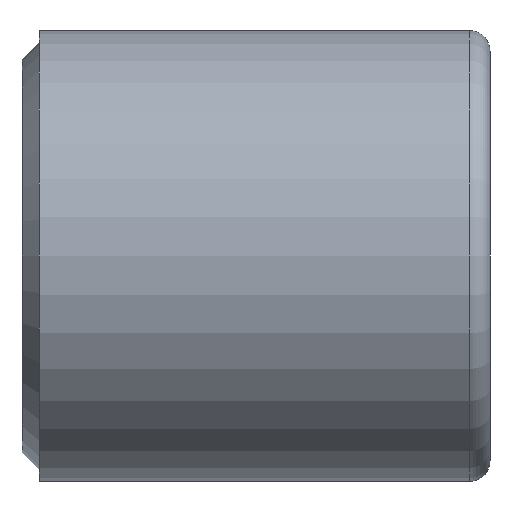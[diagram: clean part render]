
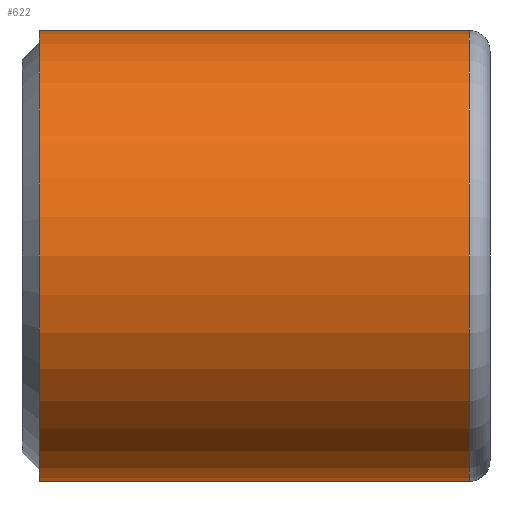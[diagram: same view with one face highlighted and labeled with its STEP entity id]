
A CAD part, front view. The second image highlights one B-rep face of the part: STEP entity #622.
In plain terms, the highlighted cylindrical face has radius 20.828 mm (diameter 41.656 mm), a partial arc.
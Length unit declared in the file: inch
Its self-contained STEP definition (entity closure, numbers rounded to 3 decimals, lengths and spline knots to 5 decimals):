
#17 = AXIS2_PLACEMENT_3D ( 'NONE', #675, #610, #232 ) ;
#63 = CARTESIAN_POINT ( 'NONE',  ( 1.62674, 0., 0. ) ) ;
#67 = VERTEX_POINT ( 'NONE', #452 ) ;
#84 = EDGE_CURVE ( 'NONE', #67, #939, #778, .T. ) ;
#166 = CARTESIAN_POINT ( 'NONE',  ( 0., 0., -0.82 ) ) ;
#187 = EDGE_CURVE ( 'NONE', #67, #660, #312, .T. ) ;
#197 = LINE ( 'NONE', #917, #910 ) ;
#232 = DIRECTION ( 'NONE',  ( 0., 0., 1. ) ) ;
#271 = CARTESIAN_POINT ( 'NONE',  ( 1.62674, 0., 0.82 ) ) ;
#312 = LINE ( 'NONE', #166, #650 ) ;
#314 = ORIENTED_EDGE ( 'NONE', *, *, #852, .T. ) ;
#319 = CYLINDRICAL_SURFACE ( 'NONE', #17, 0.82 ) ;
#359 = DIRECTION ( 'NONE',  ( 0., 0., 1. ) ) ;
#364 = DIRECTION ( 'NONE',  ( -1., 0., 0. ) ) ;
#432 = AXIS2_PLACEMENT_3D ( 'NONE', #63, #364, #359 ) ;
#452 = CARTESIAN_POINT ( 'NONE',  ( 1.62674, 0., -0.82 ) ) ;
#481 = CARTESIAN_POINT ( 'NONE',  ( 0.06274, 0., 0. ) ) ;
#553 = DIRECTION ( 'NONE',  ( 0., 0., 1. ) ) ;
#559 = DIRECTION ( 'NONE',  ( -1., 0., 0. ) ) ;
#610 = DIRECTION ( 'NONE',  ( -1., 0., 0. ) ) ;
#622 = ADVANCED_FACE ( 'NONE', ( #856 ), #319, .T. ) ;
#650 = VECTOR ( 'NONE', #821, 39.37008 ) ;
#660 = VERTEX_POINT ( 'NONE', #897 ) ;
#675 = CARTESIAN_POINT ( 'NONE',  ( 0., 0., 0. ) ) ;
#695 = DIRECTION ( 'NONE',  ( -1., 0., 0. ) ) ;
#714 = ORIENTED_EDGE ( 'NONE', *, *, #803, .F. ) ;
#770 = EDGE_LOOP ( 'NONE', ( #793, #877, #314, #714 ) ) ;
#778 = CIRCLE ( 'NONE', #432, 0.82 ) ;
#793 = ORIENTED_EDGE ( 'NONE', *, *, #187, .F. ) ;
#803 = EDGE_CURVE ( 'NONE', #660, #843, #834, .T. ) ;
#808 = AXIS2_PLACEMENT_3D ( 'NONE', #481, #559, #553 ) ;
#821 = DIRECTION ( 'NONE',  ( -1., 0., 0. ) ) ;
#834 = CIRCLE ( 'NONE', #808, 0.82 ) ;
#843 = VERTEX_POINT ( 'NONE', #845 ) ;
#845 = CARTESIAN_POINT ( 'NONE',  ( 0.06274, 0., 0.82 ) ) ;
#852 = EDGE_CURVE ( 'NONE', #939, #843, #197, .T. ) ;
#856 = FACE_OUTER_BOUND ( 'NONE', #770, .T. ) ;
#877 = ORIENTED_EDGE ( 'NONE', *, *, #84, .T. ) ;
#897 = CARTESIAN_POINT ( 'NONE',  ( 0.06274, 0., -0.82 ) ) ;
#910 = VECTOR ( 'NONE', #695, 39.37008 ) ;
#917 = CARTESIAN_POINT ( 'NONE',  ( 0., 0., 0.82 ) ) ;
#939 = VERTEX_POINT ( 'NONE', #271 ) ;
